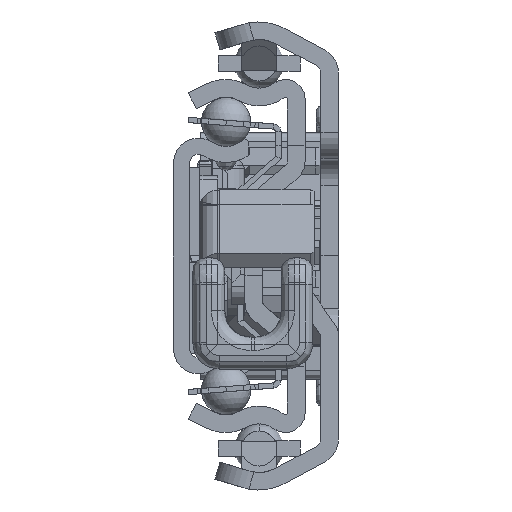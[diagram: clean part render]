
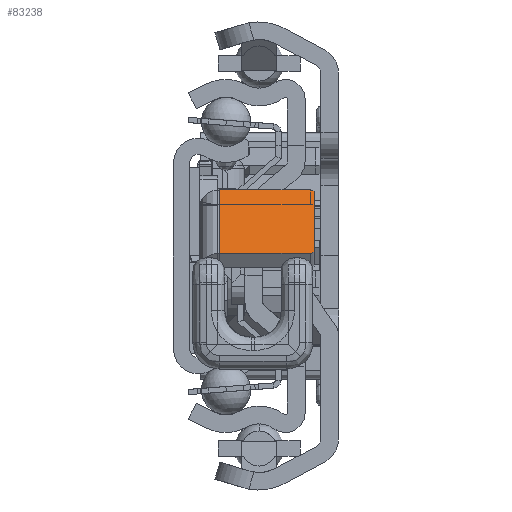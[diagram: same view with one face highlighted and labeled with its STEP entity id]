
A CAD part, left-side view. The second image highlights one B-rep face of the part: STEP entity #83238.
In plain terms, the highlighted planar face has unit normal (-0.597, 0, 0.802) as drawn and (-0.597, -0.802, 0) by its records, which use the part's own axes.
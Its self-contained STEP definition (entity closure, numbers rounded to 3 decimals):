
#82626=DIRECTION('',(0.802,-0.597,0.));
#82627=VECTOR('',#82626,12.);
#82628=CARTESIAN_POINT('',(31.957,-10.314,-0.2));
#82629=LINE('',#82628,#82627);
#82654=DIRECTION('',(0.,0.,1.));
#82655=VECTOR('',#82654,10.3);
#82656=CARTESIAN_POINT('',(41.586,-17.476,-10.5));
#82657=LINE('',#82656,#82655);
#82658=CARTESIAN_POINT('',(41.184,-17.178,-10.5));
#82659=DIRECTION('',(-0.597,-0.802,0.));
#82660=DIRECTION('',(0.,0.,-1.));
#82661=AXIS2_PLACEMENT_3D('',#82658,#82659,#82660);
#82663=DIRECTION('',(0.802,-0.597,0.));
#82664=VECTOR('',#82663,11.);
#82665=CARTESIAN_POINT('',(32.358,-10.613,-11.));
#82666=LINE('',#82665,#82664);
#82667=CARTESIAN_POINT('',(32.358,-10.613,-10.5));
#82668=DIRECTION('',(-0.597,-0.802,0.));
#82669=DIRECTION('',(-0.802,0.597,0.));
#82670=AXIS2_PLACEMENT_3D('',#82667,#82668,#82669);
#82672=DIRECTION('',(0.,0.,-1.));
#82673=VECTOR('',#82672,10.3);
#82674=CARTESIAN_POINT('',(31.957,-10.314,-0.2));
#82675=LINE('',#82674,#82673);
#82892=CARTESIAN_POINT('',(31.957,-10.314,-0.2));
#82893=CARTESIAN_POINT('',(41.586,-17.476,-0.2));
#82894=VERTEX_POINT('',#82892);
#82895=VERTEX_POINT('',#82893);
#82924=CARTESIAN_POINT('',(41.586,-17.476,-10.5));
#82925=VERTEX_POINT('',#82924);
#82926=CARTESIAN_POINT('',(32.358,-10.613,-11.));
#82927=CARTESIAN_POINT('',(41.184,-17.178,-11.));
#82928=VERTEX_POINT('',#82926);
#82929=VERTEX_POINT('',#82927);
#82930=CARTESIAN_POINT('',(31.957,-10.314,-10.5));
#82931=VERTEX_POINT('',#82930);
#83220=CARTESIAN_POINT('',(34.726,-12.374,2.));
#83221=DIRECTION('',(0.597,0.802,0.));
#83222=DIRECTION('',(0.802,-0.597,0.));
#83223=AXIS2_PLACEMENT_3D('',#83220,#83221,#83222);
#83224=PLANE('',#83223);
#83226=ORIENTED_EDGE('',*,*,#83225,.F.);
#83228=ORIENTED_EDGE('',*,*,#83227,.F.);
#83230=ORIENTED_EDGE('',*,*,#83229,.F.);
#83232=ORIENTED_EDGE('',*,*,#83231,.F.);
#83234=ORIENTED_EDGE('',*,*,#83233,.F.);
#83235=ORIENTED_EDGE('',*,*,#83207,.T.);
#83236=EDGE_LOOP('',(#83226,#83228,#83230,#83232,#83234,#83235));
#83237=FACE_OUTER_BOUND('',#83236,.F.);
#82662=CIRCLE('',#82661,0.5);
#82671=CIRCLE('',#82670,0.5);
#83207=EDGE_CURVE('',#82894,#82895,#82629,.T.);
#83225=EDGE_CURVE('',#82925,#82895,#82657,.T.);
#83227=EDGE_CURVE('',#82929,#82925,#82662,.T.);
#83229=EDGE_CURVE('',#82928,#82929,#82666,.T.);
#83231=EDGE_CURVE('',#82931,#82928,#82671,.T.);
#83233=EDGE_CURVE('',#82894,#82931,#82675,.T.);
#83238=ADVANCED_FACE('',(#83237),#83224,.F.);
